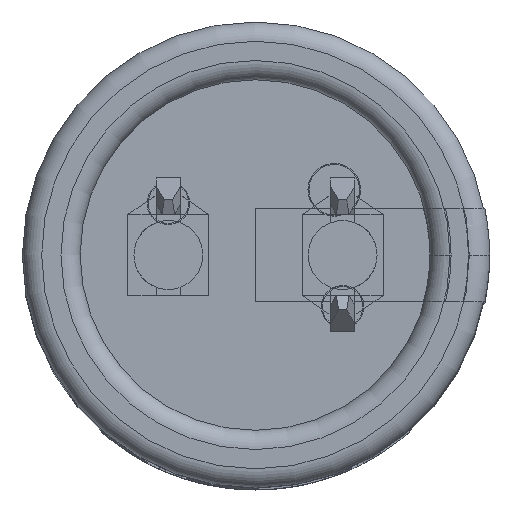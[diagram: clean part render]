
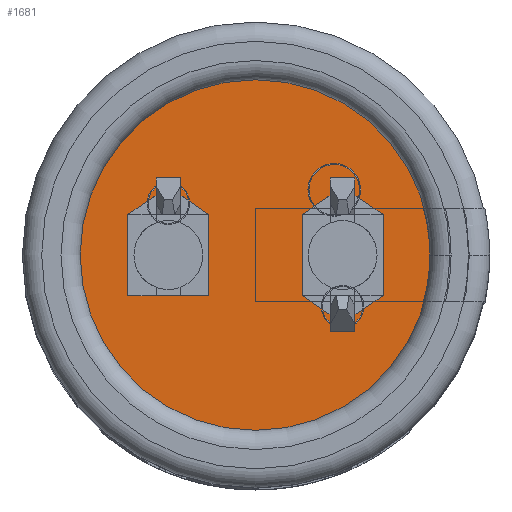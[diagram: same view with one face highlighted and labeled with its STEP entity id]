
A CAD part, top view. The second image highlights one B-rep face of the part: STEP entity #1681.
In plain terms, the highlighted planar face has unit normal (0, 0, 1).
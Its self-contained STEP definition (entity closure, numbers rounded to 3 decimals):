
#1588 = VERTEX_POINT('',#1589);
#1589 = CARTESIAN_POINT('',(8.65,0.,0.01));
#1596 = CYLINDRICAL_SURFACE('',#1597,8.65);
#1597 = AXIS2_PLACEMENT_3D('',#1598,#1599,#1600);
#1598 = CARTESIAN_POINT('',(0.,0.,0.));
#1599 = DIRECTION('',(0.,0.,-1.));
#1600 = DIRECTION('',(1.,0.,0.));
#1615 = EDGE_CURVE('',#1588,#1588,#1616,.T.);
#1616 = SURFACE_CURVE('',#1617,(#1622,#1629),.PCURVE_S1.);
#1617 = CIRCLE('',#1618,8.65);
#1618 = AXIS2_PLACEMENT_3D('',#1619,#1620,#1621);
#1619 = CARTESIAN_POINT('',(0.,0.,0.01));
#1620 = DIRECTION('',(0.,0.,1.));
#1621 = DIRECTION('',(1.,0.,0.));
#1622 = PCURVE('',#1596,#1623);
#1623 = DEFINITIONAL_REPRESENTATION('',(#1624),#1628);
#1624 = LINE('',#1625,#1626);
#1625 = CARTESIAN_POINT('',(0.,-0.01));
#1626 = VECTOR('',#1627,1.);
#1627 = DIRECTION('',(-1.,0.));
#1628 = ( GEOMETRIC_REPRESENTATION_CONTEXT(2) 
PARAMETRIC_REPRESENTATION_CONTEXT() REPRESENTATION_CONTEXT('2D SPACE',''
  ) );
#1629 = PCURVE('',#1630,#1635);
#1630 = PLANE('',#1631);
#1631 = AXIS2_PLACEMENT_3D('',#1632,#1633,#1634);
#1632 = CARTESIAN_POINT('',(8.65,0.,0.01));
#1633 = DIRECTION('',(0.,0.,-1.));
#1634 = DIRECTION('',(-1.,0.,0.));
#1635 = DEFINITIONAL_REPRESENTATION('',(#1636),#1644);
#1636 = ( BOUNDED_CURVE() B_SPLINE_CURVE(2,(#1637,#1638,#1639,#1640,
#1641,#1642,#1643),.UNSPECIFIED.,.F.,.F.) B_SPLINE_CURVE_WITH_KNOTS((1,2
    ,2,2,2,1),(-2.094,0.,2.094,4.189,
6.283,8.378),.UNSPECIFIED.) CURVE() 
GEOMETRIC_REPRESENTATION_ITEM() RATIONAL_B_SPLINE_CURVE((1.,0.5,1.,0.5,
1.,0.5,1.)) REPRESENTATION_ITEM('') );
#1637 = CARTESIAN_POINT('',(0.,0.));
#1638 = CARTESIAN_POINT('',(0.,14.982));
#1639 = CARTESIAN_POINT('',(12.975,7.491));
#1640 = CARTESIAN_POINT('',(25.95,0.));
#1641 = CARTESIAN_POINT('',(12.975,-7.491));
#1642 = CARTESIAN_POINT('',(0.,-14.982));
#1643 = CARTESIAN_POINT('',(0.,0.));
#1644 = ( GEOMETRIC_REPRESENTATION_CONTEXT(2) 
PARAMETRIC_REPRESENTATION_CONTEXT() REPRESENTATION_CONTEXT('2D SPACE',''
  ) );
#1681 = ADVANCED_FACE('',(#1682),#1630,.F.);
#1682 = FACE_BOUND('',#1683,.T.);
#1683 = EDGE_LOOP('',(#1684));
#1684 = ORIENTED_EDGE('',*,*,#1615,.T.);
